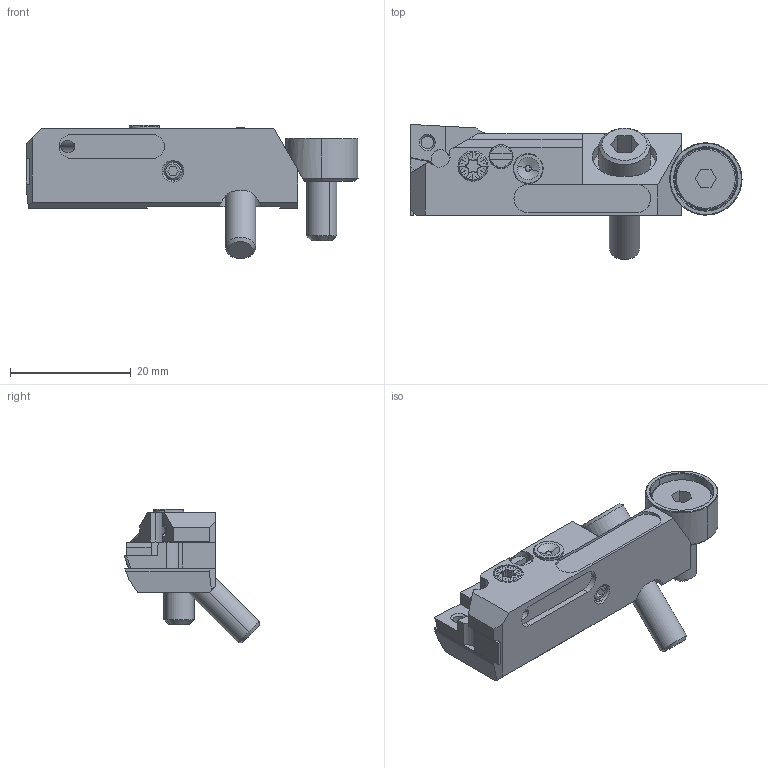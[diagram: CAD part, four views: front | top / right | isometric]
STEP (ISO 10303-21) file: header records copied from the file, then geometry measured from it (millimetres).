
FILE_DESCRIPTION (( 'STEP AP203' ), '1' );
FILE_NAME ('UFP-0690LH.STEP', '2022-10-07T09:25:26', ( '' ), ( '' ), 'SwSTEP 2.0', 'SolidWorks 2019', '' );
FILE_SCHEMA (( 'CONFIG_CONTROL_DESIGN' ));
Length unit declared in the file: millimetre
Products named in the file (1): UFP-0690LH
Bounding box: 55.1 x 22.39 x 22.12 mm (x, y, z)
Volume: 7451 mm3; surface area: 6675.8 mm2
Topology: 13 solids, 13 shells, 520 faces, 1368 edges, 888 vertices
Faces by surface type: plane 295, cylinder 117, cone 91, torus 12, bspline 3, sphere 2
Entity records: 17918 total; most frequent: CARTESIAN_POINT 4910, ORIENTED_EDGE 2722, DIRECTION 2658, EDGE_CURVE 1361, LINE 896, VECTOR 896, VERTEX_POINT 885, AXIS2_PLACEMENT_3D 881
